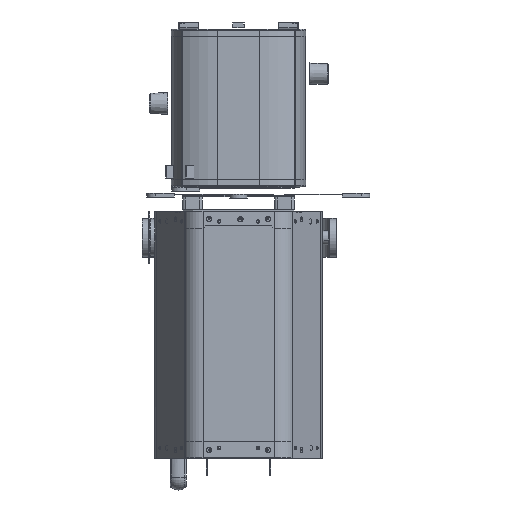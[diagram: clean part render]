
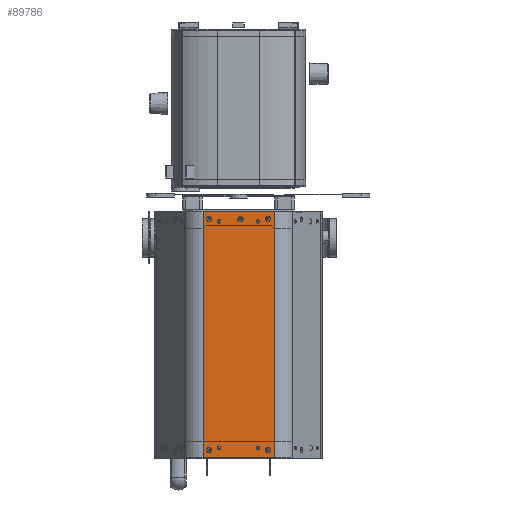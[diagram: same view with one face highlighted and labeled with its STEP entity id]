
A CAD part, front view. The second image highlights one B-rep face of the part: STEP entity #89786.
In plain terms, the highlighted planar face has unit normal (0, -1, 0) as drawn and (0, 1, 0) by its records, which use the part's own axes.
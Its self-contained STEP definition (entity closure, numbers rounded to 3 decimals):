
#138 = VERTEX_POINT ( 'NONE', #26907 ) ;
#233 = ORIENTED_EDGE ( 'NONE', *, *, #74651, .F. ) ;
#2261 = EDGE_CURVE ( 'NONE', #94865, #84334, #27717, .T. ) ;
#5066 = DIRECTION ( 'NONE',  ( 0., 0., 1. ) ) ;
#6203 = DIRECTION ( 'NONE',  ( 0., 0., 1. ) ) ;
#6416 = EDGE_CURVE ( 'NONE', #138, #80700, #84440, .T. ) ;
#7354 = EDGE_CURVE ( 'NONE', #54884, #8099, #71291, .T. ) ;
#7919 = DIRECTION ( 'NONE',  ( 0., 0., 1. ) ) ;
#8099 = VERTEX_POINT ( 'NONE', #96802 ) ;
#9816 = CARTESIAN_POINT ( 'NONE',  ( -30., 127.45, -13.75 ) ) ;
#10336 = CIRCLE ( 'NONE', #75788, 2.25 ) ;
#11580 = CARTESIAN_POINT ( 'NONE',  ( 30., 127.45, -366. ) ) ;
#12306 = ORIENTED_EDGE ( 'NONE', *, *, #36729, .T. ) ;
#17494 = LINE ( 'NONE', #63380, #53338 ) ;
#17754 = CARTESIAN_POINT ( 'NONE',  ( -30., 127.45, -368.25 ) ) ;
#17757 = FACE_BOUND ( 'NONE', #35305, .T. ) ;
#18345 = DIRECTION ( 'NONE',  ( 1., 0., 0. ) ) ;
#19520 = FACE_BOUND ( 'NONE', #65235, .T. ) ;
#21047 = DIRECTION ( 'NONE',  ( 0., 1., 0. ) ) ;
#23951 = CARTESIAN_POINT ( 'NONE',  ( 30., 127.45, -368.25 ) ) ;
#24311 = CARTESIAN_POINT ( 'NONE',  ( 30., 127.45, -366. ) ) ;
#24662 = ORIENTED_EDGE ( 'NONE', *, *, #7354, .F. ) ;
#25389 = DIRECTION ( 'NONE',  ( -1., 0., 0. ) ) ;
#26907 = CARTESIAN_POINT ( 'NONE',  ( 30., 127.45, -13.75 ) ) ;
#27406 = CARTESIAN_POINT ( 'NONE',  ( 54.848, 127.45, -382. ) ) ;
#27717 = CIRCLE ( 'NONE', #93306, 2.25 ) ;
#28802 = DIRECTION ( 'NONE',  ( 0., 1., 0. ) ) ;
#28991 = AXIS2_PLACEMENT_3D ( 'NONE', #108708, #99663, #73082 ) ;
#30646 = ORIENTED_EDGE ( 'NONE', *, *, #31051, .F. ) ;
#31051 = EDGE_CURVE ( 'NONE', #43764, #117881, #96462, .T. ) ;
#31395 = CARTESIAN_POINT ( 'NONE',  ( -30., 127.45, -363.75 ) ) ;
#32300 = AXIS2_PLACEMENT_3D ( 'NONE', #67159, #82911, #47870 ) ;
#32421 = AXIS2_PLACEMENT_3D ( 'NONE', #85672, #21047, #112767 ) ;
#33141 = EDGE_CURVE ( 'NONE', #101242, #84805, #108442, .T. ) ;
#34536 = CARTESIAN_POINT ( 'NONE',  ( -54.848, 127.45, -382. ) ) ;
#34767 = ORIENTED_EDGE ( 'NONE', *, *, #108017, .F. ) ;
#35305 = EDGE_LOOP ( 'NONE', ( #112981, #30646 ) ) ;
#36729 = EDGE_CURVE ( 'NONE', #55573, #107836, #115717, .T. ) ;
#38350 = VECTOR ( 'NONE', #25389, 1000. ) ;
#38488 = ORIENTED_EDGE ( 'NONE', *, *, #42236, .F. ) ;
#38494 = EDGE_LOOP ( 'NONE', ( #83628, #34767 ) ) ;
#41529 = CARTESIAN_POINT ( 'NONE',  ( 54.848, 127.45, -382. ) ) ;
#41697 = DIRECTION ( 'NONE',  ( 0., 0., 1. ) ) ;
#42236 = EDGE_CURVE ( 'NONE', #55573, #54884, #17494, .T. ) ;
#43644 = DIRECTION ( 'NONE',  ( 0., 1., 0. ) ) ;
#43764 = VERTEX_POINT ( 'NONE', #17754 ) ;
#44158 = AXIS2_PLACEMENT_3D ( 'NONE', #118716, #28802, #100661 ) ;
#46708 = FACE_BOUND ( 'NONE', #38494, .T. ) ;
#47870 = DIRECTION ( 'NONE',  ( 0., 0., 1. ) ) ;
#48357 = DIRECTION ( 'NONE',  ( 0., 0., 1. ) ) ;
#48385 = DIRECTION ( 'NONE',  ( 0., 1., 0. ) ) ;
#51975 = DIRECTION ( 'NONE',  ( 0., 1., 0. ) ) ;
#53338 = VECTOR ( 'NONE', #98388, 1000. ) ;
#54370 = CARTESIAN_POINT ( 'NONE',  ( -30., 127.45, -16. ) ) ;
#54884 = VERTEX_POINT ( 'NONE', #101950 ) ;
#55573 = VERTEX_POINT ( 'NONE', #84012 ) ;
#57357 = CIRCLE ( 'NONE', #32300, 2.25 ) ;
#59575 = ORIENTED_EDGE ( 'NONE', *, *, #86017, .F. ) ;
#62312 = CARTESIAN_POINT ( 'NONE',  ( 30., 127.45, -363.75 ) ) ;
#63380 = CARTESIAN_POINT ( 'NONE',  ( 54.848, 127.45, -382. ) ) ;
#63448 = AXIS2_PLACEMENT_3D ( 'NONE', #11580, #48385, #41697 ) ;
#65235 = EDGE_LOOP ( 'NONE', ( #59575, #74420 ) ) ;
#67159 = CARTESIAN_POINT ( 'NONE',  ( 30., 127.45, -16. ) ) ;
#68129 = EDGE_CURVE ( 'NONE', #107836, #8099, #81016, .T. ) ;
#70704 = ORIENTED_EDGE ( 'NONE', *, *, #68129, .T. ) ;
#71291 = LINE ( 'NONE', #108090, #38350 ) ;
#72077 = EDGE_LOOP ( 'NONE', ( #24662, #38488, #12306, #70704 ) ) ;
#72173 = VECTOR ( 'NONE', #106704, 1000. ) ;
#73082 = DIRECTION ( 'NONE',  ( 0., 0., 1. ) ) ;
#74420 = ORIENTED_EDGE ( 'NONE', *, *, #2261, .F. ) ;
#74651 = EDGE_CURVE ( 'NONE', #84805, #101242, #74967, .T. ) ;
#74967 = CIRCLE ( 'NONE', #63448, 2.25 ) ;
#75298 = EDGE_LOOP ( 'NONE', ( #233, #85095 ) ) ;
#75788 = AXIS2_PLACEMENT_3D ( 'NONE', #112878, #76709, #48357 ) ;
#76709 = DIRECTION ( 'NONE',  ( 0., 1., 0. ) ) ;
#78760 = EDGE_CURVE ( 'NONE', #117881, #43764, #119314, .T. ) ;
#80700 = VERTEX_POINT ( 'NONE', #107153 ) ;
#81016 = LINE ( 'NONE', #34536, #110502 ) ;
#82911 = DIRECTION ( 'NONE',  ( 0., 1., 0. ) ) ;
#83628 = ORIENTED_EDGE ( 'NONE', *, *, #6416, .F. ) ;
#84012 = CARTESIAN_POINT ( 'NONE',  ( 54.848, 127.45, -382. ) ) ;
#84334 = VERTEX_POINT ( 'NONE', #9816 ) ;
#84440 = CIRCLE ( 'NONE', #32421, 2.25 ) ;
#84805 = VERTEX_POINT ( 'NONE', #62312 ) ;
#85095 = ORIENTED_EDGE ( 'NONE', *, *, #33141, .F. ) ;
#85672 = CARTESIAN_POINT ( 'NONE',  ( 30., 127.45, -16. ) ) ;
#86017 = EDGE_CURVE ( 'NONE', #84334, #94865, #10336, .T. ) ;
#86837 = AXIS2_PLACEMENT_3D ( 'NONE', #27406, #111844, #18345 ) ;
#89786 = ADVANCED_FACE ( 'NONE', ( #19520, #92576, #17757, #46708, #91409 ), #110062, .T. ) ;
#91409 = FACE_OUTER_BOUND ( 'NONE', #72077, .T. ) ;
#91691 = CARTESIAN_POINT ( 'NONE',  ( -30., 127.45, -18.25 ) ) ;
#92576 = FACE_BOUND ( 'NONE', #75298, .T. ) ;
#93306 = AXIS2_PLACEMENT_3D ( 'NONE', #54370, #51975, #7919 ) ;
#94865 = VERTEX_POINT ( 'NONE', #91691 ) ;
#96462 = CIRCLE ( 'NONE', #28991, 2.25 ) ;
#96802 = CARTESIAN_POINT ( 'NONE',  ( -54.848, 127.45, 0. ) ) ;
#98388 = DIRECTION ( 'NONE',  ( 0., 0., 1. ) ) ;
#98801 = AXIS2_PLACEMENT_3D ( 'NONE', #24311, #43644, #5066 ) ;
#99663 = DIRECTION ( 'NONE',  ( 0., 1., 0. ) ) ;
#100661 = DIRECTION ( 'NONE',  ( 0., 0., 1. ) ) ;
#101242 = VERTEX_POINT ( 'NONE', #23951 ) ;
#101950 = CARTESIAN_POINT ( 'NONE',  ( 54.848, 127.45, 0. ) ) ;
#106704 = DIRECTION ( 'NONE',  ( -1., 0., 0. ) ) ;
#107153 = CARTESIAN_POINT ( 'NONE',  ( 30., 127.45, -18.25 ) ) ;
#107684 = CARTESIAN_POINT ( 'NONE',  ( -54.848, 127.45, -382. ) ) ;
#107836 = VERTEX_POINT ( 'NONE', #107684 ) ;
#108017 = EDGE_CURVE ( 'NONE', #80700, #138, #57357, .T. ) ;
#108090 = CARTESIAN_POINT ( 'NONE',  ( 54.848, 127.45, 0. ) ) ;
#108442 = CIRCLE ( 'NONE', #98801, 2.25 ) ;
#108708 = CARTESIAN_POINT ( 'NONE',  ( -30., 127.45, -366. ) ) ;
#110062 = PLANE ( 'NONE',  #86837 ) ;
#110502 = VECTOR ( 'NONE', #6203, 1000. ) ;
#111844 = DIRECTION ( 'NONE',  ( 0., 1., 0. ) ) ;
#112767 = DIRECTION ( 'NONE',  ( 0., 0., 1. ) ) ;
#112878 = CARTESIAN_POINT ( 'NONE',  ( -30., 127.45, -16. ) ) ;
#112981 = ORIENTED_EDGE ( 'NONE', *, *, #78760, .F. ) ;
#115717 = LINE ( 'NONE', #41529, #72173 ) ;
#117881 = VERTEX_POINT ( 'NONE', #31395 ) ;
#118716 = CARTESIAN_POINT ( 'NONE',  ( -30., 127.45, -366. ) ) ;
#119314 = CIRCLE ( 'NONE', #44158, 2.25 ) ;
